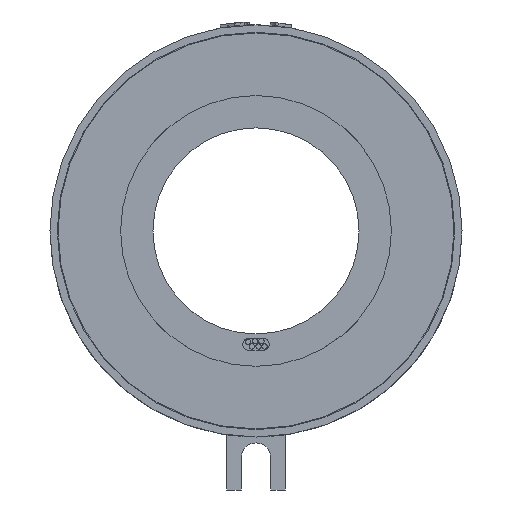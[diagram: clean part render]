
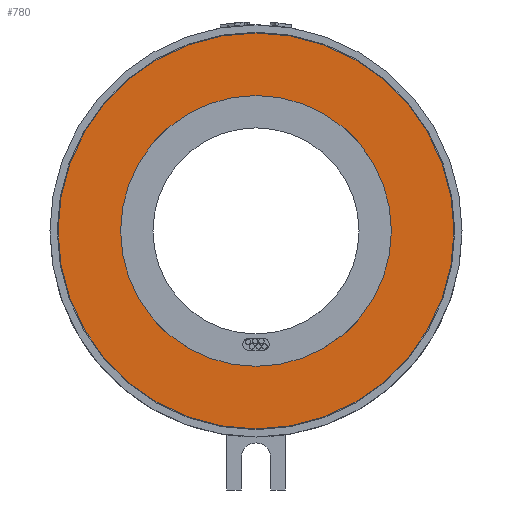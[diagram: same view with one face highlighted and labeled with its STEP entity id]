
A CAD part, front view. The second image highlights one B-rep face of the part: STEP entity #780.
In plain terms, the highlighted planar face has unit normal (0, -1, 0).
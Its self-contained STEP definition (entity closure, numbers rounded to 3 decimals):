
#555=PLANE('',#7364);
#780=ADVANCED_FACE('',(#2060,#2061),#555,.F.);
#1323=CIRCLE('',#7355,46.);
#1327=CIRCLE('',#7361,67.25);
#1328=CIRCLE('',#7362,67.25);
#1329=CIRCLE('',#7363,46.);
#2060=FACE_BOUND('',#2188,.T.);
#2061=FACE_BOUND('',#2189,.T.);
#2188=EDGE_LOOP('',(#2939,#2940));
#2189=EDGE_LOOP('',(#2941,#2942));
#2939=ORIENTED_EDGE('',*,*,#5748,.T.);
#2940=ORIENTED_EDGE('',*,*,#5749,.T.);
#2941=ORIENTED_EDGE('',*,*,#5750,.T.);
#2942=ORIENTED_EDGE('',*,*,#5740,.T.);
#5031=VERTEX_POINT('',#13329);
#5032=VERTEX_POINT('',#13331);
#5039=VERTEX_POINT('',#13469);
#5040=VERTEX_POINT('',#13470);
#5740=EDGE_CURVE('',#5031,#5032,#1323,.T.);
#5748=EDGE_CURVE('',#5039,#5040,#1327,.T.);
#5749=EDGE_CURVE('',#5040,#5039,#1328,.T.);
#5750=EDGE_CURVE('',#5032,#5031,#1329,.T.);
#7355=AXIS2_PLACEMENT_3D('',#13332,#8095,#8096);
#7361=AXIS2_PLACEMENT_3D('',#13468,#8107,#8108);
#7362=AXIS2_PLACEMENT_3D('',#13471,#8109,#8110);
#7363=AXIS2_PLACEMENT_3D('',#13472,#8111,#8112);
#7364=AXIS2_PLACEMENT_3D('',#13473,#8113,#8114);
#8095=DIRECTION('',(0.,1.,0.));
#8096=DIRECTION('',(1.,0.,0.));
#8107=DIRECTION('',(0.,-1.,0.));
#8108=DIRECTION('',(-1.,0.,0.));
#8109=DIRECTION('',(0.,-1.,0.));
#8110=DIRECTION('',(1.,0.,0.));
#8111=DIRECTION('',(0.,1.,0.));
#8112=DIRECTION('',(-1.,0.,0.));
#8113=DIRECTION('',(0.,1.,0.));
#8114=DIRECTION('',(-1.,0.,0.));
#13329=CARTESIAN_POINT('',(46.,8.5,0.));
#13331=CARTESIAN_POINT('',(-46.,8.5,0.));
#13332=CARTESIAN_POINT('',(0.,8.5,0.));
#13468=CARTESIAN_POINT('',(0.,8.5,0.));
#13469=CARTESIAN_POINT('',(-67.25,8.5,0.));
#13470=CARTESIAN_POINT('',(67.25,8.5,0.));
#13471=CARTESIAN_POINT('',(0.,8.5,0.));
#13472=CARTESIAN_POINT('',(0.,8.5,0.));
#13473=CARTESIAN_POINT('',(0.,8.5,0.));
